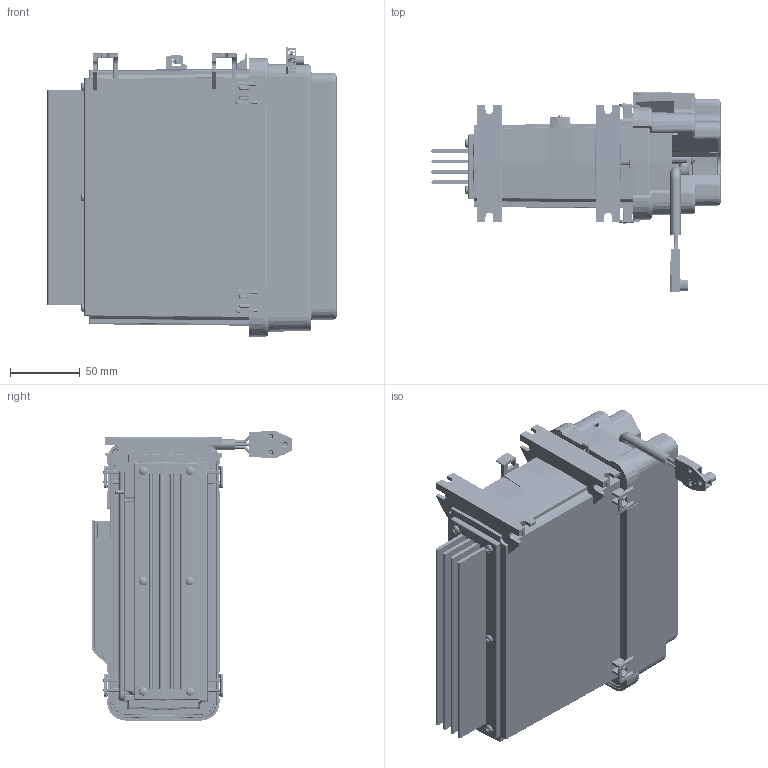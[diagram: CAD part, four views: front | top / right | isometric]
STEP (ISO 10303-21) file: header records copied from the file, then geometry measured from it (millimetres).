
FILE_DESCRIPTION((''),'2;1');
FILE_NAME('105N4869_ASM','2023-04-25T09:23:25',('dehc5875'),(''),'CREO PARAMETRIC BY PTC INC, 2022162','CREO PARAMETRIC BY PTC INC, 2022162','');
FILE_SCHEMA(('CONFIG_CONTROL_DESIGN'));
Products named in the file (19): 105B4541; 105B4547; 640N0044; 105B4546; 105B9090_ASM; 640N2628; 105B4548_AHT; 105B9089_ASM; 443800002; 105B4521-01_ASM; 105B4543; 105B4544; 640N2416_OLD; 640N0428; 105A0267_BEND; 105A0269; PANDUIT_CCS25_S8_C; 640N2935; 105N4869_ASM
Assembly tree (48 placements, depth 4):
  105N4869_ASM
    105B4541
    105B4547
    105B9089_ASM
      640N0044  x18
      105B9090_ASM
        105B4546
      640N2628  x3
      105B4548_AHT
    105B4521-01_ASM
      443800002
      640N0044  x3
    105B4543
    105B4544
    640N2416_OLD  x6
    640N0428  x4
    105A0267_BEND
    105A0269
    PANDUIT_CCS25_S8_C
    640N2935
Bounding box: 207.05 x 143.51 x 207.9 mm (x, y, z)
Volume: 481711.5 mm3; surface area: 493910.8 mm2
Topology: 45 solids, 116 shells, 11777 faces, 32909 edges, 21448 vertices
Faces by surface type: plane 6698, cylinder 3010, bspline 841, cone 662, torus 315, sphere 251
Entity records: 399166 total; most frequent: CARTESIAN_POINT 120415, ORIENTED_EDGE 59909, DIRECTION 52931, EDGE_CURVE 31143, VECTOR 23121, LINE 23121, VERTEX_POINT 20339, AXIS2_PLACEMENT_3D 14905
